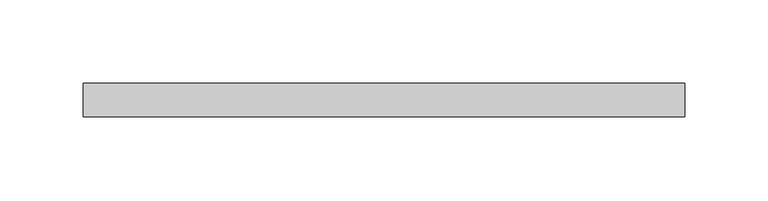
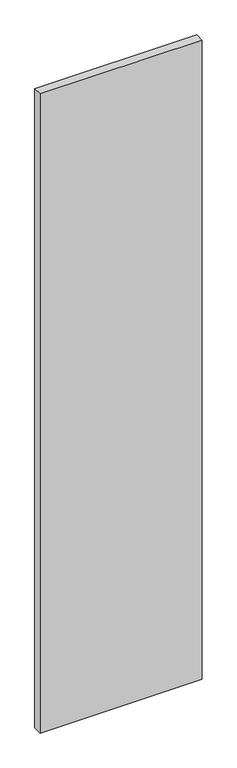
"""IFC4 building model written with IfcOpenShell, lengths in millimetres: proxy geometry, КНАУФ-Файерборд : КНАУФ-Файерборд."""

import ifcopenshell
import ifcopenshell.guid

model = None  # the IFC model being written
_history = None  # IfcOwnerHistory: only IFC2X3 demands one
_inside = {}  # id of a spatial element -> (the spatial element, [elements in it])
_under = {}  # id of a project, library or spatial element -> (it, [spatial elements below it])
_declared = {}  # id of a project -> (the project, [libraries it declares])
_typed = {}  # id of a type object -> (the type object, [elements of that type])
_made_of = {}  # id of a material, layer set ... -> (it, [elements and type objects made of it])


def new_model(schema):
    """Start an empty IFC model of exactly this schema.

    Asked for "IFC4X3", IfcOpenShell would pick the latest addendum, in which some entities
    have other attributes; the version numbers below select the first issue.
    IFC2X3 requires an IfcOwnerHistory on every rooted entity: one is made here for all.
    """
    global model, _history
    if schema == "IFC4X3":
        model = ifcopenshell.file(schema_version=(4, 3, 0, 0))
    else:
        model = ifcopenshell.file(schema=schema)
    _inside.clear()
    _under.clear()
    _declared.clear()
    _typed.clear()
    _made_of.clear()
    _history = None
    if model.schema == "IFC2X3":
        org = make("IfcOrganization", Name="unknown")
        user = make(
            "IfcPersonAndOrganization",
            ThePerson=make("IfcPerson", FamilyName="unknown"),
            TheOrganization=org,
        )
        app = make(
            "IfcApplication",
            ApplicationDeveloper=org,
            Version="unknown",
            ApplicationFullName="unknown",
            ApplicationIdentifier="unknown",
        )
        _history = make(
            "IfcOwnerHistory",
            OwningUser=user,
            OwningApplication=app,
            ChangeAction="ADDED",
            CreationDate=0,
        )
    return model


def make(cls, **values):
    """One entity of the class cls with the attributes given. An attribute that is None is left unset."""
    return model.create_entity(
        cls, **{name: value for name, value in values.items() if value is not None}
    )


def rooted(cls, **values):
    """An entity with a GlobalId (a new one), such as an element, a storey or a relation."""
    return make(cls, GlobalId=ifcopenshell.guid.new(), OwnerHistory=_history, **values)


def si_unit(unit_type, name, prefix=None):
    """IfcSIUnit, for example si_unit("LENGTHUNIT", "METRE", prefix="MILLI")."""
    return make("IfcSIUnit", UnitType=unit_type, Prefix=prefix, Name=name)


def assignment(units):
    """IfcUnitAssignment: the units of a project."""
    return None if units is None else make("IfcUnitAssignment", Units=units)


def point(xyz):
    """IfcCartesianPoint."""
    return None if xyz is None else make("IfcCartesianPoint", Coordinates=xyz)


def direction(xyz):
    """IfcDirection."""
    return None if xyz is None else make("IfcDirection", DirectionRatios=xyz)


def frame(location, z_axis=None, x_axis=None):
    """IfcAxis2Placement3D, a coordinate frame: its origin and axes. An axis left out is left unset."""
    return make(
        "IfcAxis2Placement3D",
        Location=point(location),
        Axis=direction(z_axis),
        RefDirection=direction(x_axis),
    )


def origin():
    """The frame at (0, 0, 0) with its axes left unset."""
    return frame((0.0, 0.0, 0.0))


def origin_with_axes():
    """The frame at (0, 0, 0) with the z axis (0, 0, 1) and the x axis (1, 0, 0) written out."""
    return frame((0.0, 0.0, 0.0), z_axis=(0.0, 0.0, 1.0), x_axis=(1.0, 0.0, 0.0))


def place(relative_to, where):
    """IfcLocalPlacement: puts the frame where relative to a parent placement (None: the world)."""
    return make(
        "IfcLocalPlacement", PlacementRelTo=relative_to, RelativePlacement=where
    )


def context(
    kind, dimensions, precision=None, world=None, true_north=None, identifier=None
):
    """IfcGeometricRepresentationContext, for example the 3D "Model" context."""
    return make(
        "IfcGeometricRepresentationContext",
        ContextIdentifier=identifier,
        ContextType=kind,
        CoordinateSpaceDimension=dimensions,
        Precision=precision,
        WorldCoordinateSystem=world,
        TrueNorth=true_north,
    )


def project(units=None, contexts=None):
    """IfcProject with its units and contexts."""
    return rooted(
        "IfcProject",
        Name="project",
        RepresentationContexts=contexts,
        UnitsInContext=assignment(units),
    )


def spatial(cls, under=None, at=None, **own):
    """A site, building, storey or space (cls), placed at a placement, below another one or the project."""
    s = rooted(cls, ObjectPlacement=at, **own)
    if under is not None:
        _under.setdefault(under.id(), (under, []))[1].append(s)
    return s


def polyline(points):
    """IfcPolyline through the points."""
    return make("IfcPolyline", Points=[point(p) for p in points])


def outline(outer, holes=None, kind="AREA"):
    """IfcArbitraryClosedProfileDef: a profile drawn as a closed curve; with holes, ...WithVoids."""
    if holes is None:
        return make("IfcArbitraryClosedProfileDef", ProfileType=kind, OuterCurve=outer)
    return make(
        "IfcArbitraryProfileDefWithVoids",
        ProfileType=kind,
        OuterCurve=outer,
        InnerCurves=holes,
    )


def extrude(swept, where, along, depth):
    """IfcExtrudedAreaSolid: the profile swept, set in the frame where, extruded along a direction by depth."""
    return make(
        "IfcExtrudedAreaSolid",
        SweptArea=swept,
        Position=where,
        ExtrudedDirection=direction(along),
        Depth=depth,
    )


def shape(context_of_items, identifier, shape_type, items):
    """IfcShapeRepresentation: the items that make up one representation, for example the "Body"."""
    return make(
        "IfcShapeRepresentation",
        ContextOfItems=context_of_items,
        RepresentationIdentifier=identifier,
        RepresentationType=shape_type,
        Items=items,
    )


def source(mapping_origin, context_of_items, identifier, shape_type, items):
    """IfcRepresentationMap: a shape defined once, which mapped items show again and again."""
    return make(
        "IfcRepresentationMap",
        MappingOrigin=mapping_origin,
        MappedRepresentation=shape(context_of_items, identifier, shape_type, items),
    )


def transform(
    local_origin,
    x_axis=None,
    y_axis=None,
    z_axis=None,
    scale=None,
    scale2=None,
    scale3=None,
    uniform=True,
):
    """IfcCartesianTransformationOperator3D, or its non-uniform kind. x_axis, y_axis, z_axis: its Axis1, 2, 3."""
    if uniform:
        return make(
            "IfcCartesianTransformationOperator3D",
            Axis1=direction(x_axis),
            Axis2=direction(y_axis),
            LocalOrigin=point(local_origin),
            Scale=scale,
            Axis3=direction(z_axis),
        )
    return make(
        "IfcCartesianTransformationOperator3DnonUniform",
        Axis1=direction(x_axis),
        Axis2=direction(y_axis),
        LocalOrigin=point(local_origin),
        Scale=scale,
        Axis3=direction(z_axis),
        Scale2=scale2,
        Scale3=scale3,
    )


def mapped(mapping_source, mapping_target):
    """IfcMappedItem: shows the shape of a source again, moved by a transform."""
    return make(
        "IfcMappedItem", MappingSource=mapping_source, MappingTarget=mapping_target
    )


def made_of(thing, what):
    """Note that an element or type object is made of a material, layer set ...; save() writes the relation."""
    if what is not None:
        _made_of.setdefault(what.id(), (what, []))[1].append(thing)
    return thing


def element(
    cls,
    number,
    at=None,
    inside=None,
    cuts=None,
    type_object=None,
    material=None,
    context=None,
    identifier="Body",
    shape_type=None,
    held_by="IfcProductDefinitionShape",
    body=None,
    shapes=None,
    **own,
):
    """One element of the class cls, such as IfcWall. Its Tag is "e" and its number.

    at: its placement. inside: the storey or other place that contains it. cuts: it is an
    opening in that element (IfcRelVoidsElement). A single representation is given by context,
    identifier, shape_type and body (its items); several are given by shapes. held_by: the class
    of the entity that holds the representations. save() writes the other relations.
    """
    e = rooted(cls, Tag="e%d" % number, ObjectPlacement=at, **own)
    if body is not None:
        shapes = [shape(context, identifier, shape_type, body)]
    if shapes is not None:
        e.Representation = make(held_by, Representations=shapes)
    if inside is not None:
        _inside.setdefault(inside.id(), (inside, []))[1].append(e)
    if cuts is not None:
        rooted(
            "IfcRelVoidsElement", RelatingBuildingElement=cuts, RelatedOpeningElement=e
        )
    if type_object is not None:
        _typed.setdefault(type_object.id(), (type_object, []))[1].append(e)
    return made_of(e, material)


def aggregate(whole, parts):
    """IfcRelAggregates: a whole, such as a stair, and the parts it consists of."""
    return rooted("IfcRelAggregates", RelatingObject=whole, RelatedObjects=parts)


def save(model, path):
    """Write the relations noted so far, then the file.

    IfcRelAggregates (storeys below a building ...), IfcRelContainedInSpatialStructure (elements
    in a storey), IfcRelDefinesByType, IfcRelAssociatesMaterial and IfcRelDeclares: one each for
    every whole, place, type object, material and project.
    """
    for whole, parts in _under.values():
        aggregate(whole, parts)
    for where, things in _inside.values():
        rooted(
            "IfcRelContainedInSpatialStructure",
            RelatedElements=things,
            RelatingStructure=where,
        )
    for kind, things in _typed.values():
        rooted("IfcRelDefinesByType", RelatedObjects=things, RelatingType=kind)
    for what, things in _made_of.values():
        rooted("IfcRelAssociatesMaterial", RelatedObjects=things, RelatingMaterial=what)
    for by, libraries in _declared.values():
        rooted("IfcRelDeclares", RelatingContext=by, RelatedDefinitions=libraries)
    model.write(path)


def generic_models_1a282b68(model_context):
    return source(origin(), model_context, "Body", "SweptSolid", [
        extrude(outline(polyline([(180.0, 0.0), (180.0, -20.0), (-180.0, -20.0), (-180.0, 0.0), (180.0, 0.0)])), origin_with_axes(), (0.0, 0.0, 1.0), 1500.0),
    ])


if __name__ == "__main__":
    model = new_model("IFC4")
    model_context = context("Model", 3, world=origin())
    ifc_project = project(units=[si_unit("LENGTHUNIT", "METRE", prefix="MILLI")], contexts=[model_context])
    site = spatial("IfcSite", under=ifc_project)
    building = spatial("IfcBuilding", under=site)
    placement = place(None, origin())
    generic_models_shape = generic_models_1a282b68(model_context)
    element("IfcBuildingElementProxy", 1, Name="КНАУФ-Файерборд : КНАУФ-Файерборд", ObjectType="КНАУФ-Файерборд : КНАУФ-Файерборд", at=placement, inside=building, context=model_context, shape_type="MappedRepresentation", body=[
        mapped(generic_models_shape, transform((0.0, 0.0, 0.0), x_axis=(1.0, 0.0, 0.0), y_axis=(0.0, 1.0, 0.0), z_axis=(0.0, 0.0, 1.0))),
    ])
    save(model, "model.ifc")
